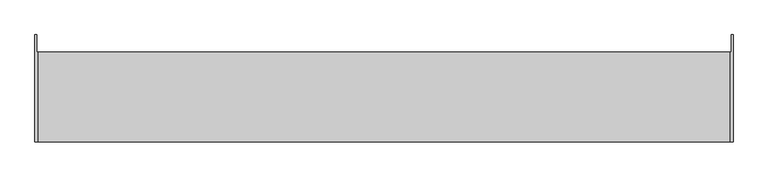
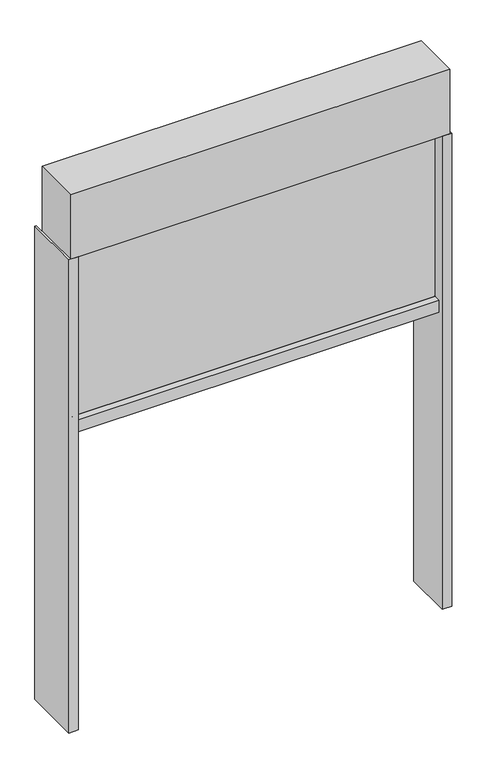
"""IFC4 building model written with IfcOpenShell, lengths in millimetres: proxy geometry, Renson_Fixscreen_Minimal_Single : Recessed - Front of the window - Large - Access downwards - Fabric away from the window."""

from ifc_helpers import new_model, si_unit, point, frame, frame_2d, origin, origin_with_axes, place, context, project, spatial, polyline, circle_curve, trimmed, segment, composite_curve, outline, extrude, source, transform, mapped, element, save


def generic_models_3f5b47c7(model_context):
    return source(origin(), model_context, "Body", "SweptSolid", [
        extrude(outline(polyline([(480.0, 563.5959909), (480.0, 693.5959909), (502.0, 693.5959909), (502.0, 718.5959909), (505.0, 718.5959909), (505.0, 563.5959909), (480.0, 563.5959909)])), origin_with_axes(), (0.0, 0.0, 1.0), 1320.0),
        extrude(outline(polyline([(-480.0, 563.5959909), (-505.0, 563.5959909), (-505.0, 718.5959909), (-502.0, 718.5959909), (-502.0, 693.5959909), (-480.0, 693.5959909), (-480.0, 563.5959909)])), origin_with_axes(), (0.0, 0.0, 1.0), 1320.0),
        extrude(outline(composite_curve([segment(polyline([(618.4393687, 820.0), (577.9394721, 820.0), (577.9394721, 854.1156826), (595.0635816, 855.0000198)]), True, "CONTINUOUS"), segment(trimmed(circle_curve(frame_2d((595.0893687, 854.5006852)), 0.5), [point((595.0635816, 855.0000198))], [point((595.5893687, 854.5006852))], False, "CARTESIAN"), True, "CONTINUOUS"), segment(polyline([(595.5893687, 854.5006852), (595.5893687, 853.5367989), (594.3242303, 853.5367989), (595.0645339, 849.0119223)]), True, "CONTINUOUS"), segment(trimmed(circle_curve(frame_2d((555.5893687, 842.5534911)), 40.0), [point((595.0645339, 849.0119223))], [point((595.5893687, 842.5534911))], False, "CARTESIAN"), True, "CONTINUOUS"), segment(polyline([(595.5893687, 842.5534911), (595.5893687, 834.5006852)]), True, "CONTINUOUS"), segment(trimmed(circle_curve(frame_2d((597.5893687, 834.5006852)), 2.0), [point((595.5893687, 834.5006852))], [point((597.5893687, 832.5006852))], True, "CARTESIAN"), True, "CONTINUOUS"), segment(polyline([(597.5893687, 832.5006852), (599.2893687, 832.5006852)]), True, "CONTINUOUS"), segment(trimmed(circle_curve(frame_2d((599.2893687, 834.5006852)), 2.0), [point((599.2893687, 832.5006852))], [point((601.2893687, 834.5006852))], True, "CARTESIAN"), True, "CONTINUOUS"), segment(polyline([(601.2893687, 834.5006852), (601.2893687, 842.5534911)]), True, "CONTINUOUS"), segment(trimmed(circle_curve(frame_2d((641.2893687, 842.5534911)), 40.0), [point((601.2893687, 842.5534911))], [point((601.8142035, 849.0119223))], False, "CARTESIAN"), True, "CONTINUOUS"), segment(polyline([(601.8142035, 849.0119223), (602.554507, 853.5367989), (601.2893687, 853.5367989), (601.2893687, 854.5006852)]), True, "CONTINUOUS"), segment(trimmed(circle_curve(frame_2d((601.7893687, 854.5006852)), 0.5), [point((601.2893687, 854.5006852))], [point((601.8159319, 854.9999791))], False, "CARTESIAN"), True, "CONTINUOUS"), segment(polyline([(601.8159319, 854.9999791), (618.4393687, 854.1156826), (618.4393687, 820.0)]), True, "CONTINUOUS")], self_intersect=False)), frame((-480.0, 0.0, 0.0), z_axis=(1.0, 0.0, 0.0), x_axis=(0.0, 1.0, 0.0)), (0.0, 0.0, 1.0), 960.0),
        extrude(outline(polyline([(-480.0, 599.9393687), (480.0, 599.9393687), (480.0, 596.9393687), (-480.0, 596.9393687), (-480.0, 599.9393687)])), frame((0.0, 0.0, 832.5006852), z_axis=(0.0, 0.0, 1.0), x_axis=(1.0, 0.0, 0.0)), (0.0, 0.0, 1.0), 487.4993148),
        extrude(outline(polyline([(-500.0, 563.5959909), (-500.0, 693.5959909), (500.0, 693.5959909), (500.0, 563.5959909), (-500.0, 563.5959909)])), frame((0.0, 0.0, 1320.0), z_axis=(0.0, 0.0, 1.0), x_axis=(1.0, 0.0, 0.0)), (0.0, 0.0, 1.0), 180.0),
    ])


if __name__ == "__main__":
    model = new_model("IFC4")
    model_context = context("Model", 3, world=origin())
    ifc_project = project(units=[si_unit("LENGTHUNIT", "METRE", prefix="MILLI")], contexts=[model_context])
    site = spatial("IfcSite", under=ifc_project)
    building = spatial("IfcBuilding", under=site)
    placement = place(None, origin())
    generic_models_shape = generic_models_3f5b47c7(model_context)
    element("IfcBuildingElementProxy", 1, Name="Renson_Fixscreen_Minimal_Single : Recessed - Front of the window - Large - Access downwards - Fabric away from the window", ObjectType="Renson_Fixscreen_Minimal_Single : Recessed - Front of the window - Large - Access downwards - Fabric away from the window", at=placement, inside=building, context=model_context, shape_type="MappedRepresentation", body=[
        mapped(generic_models_shape, transform((0.0, 0.0, 0.0), x_axis=(1.0, 0.0, 0.0), y_axis=(0.0, 1.0, 0.0), z_axis=(0.0, 0.0, 1.0))),
    ])
    save(model, "model.ifc")
